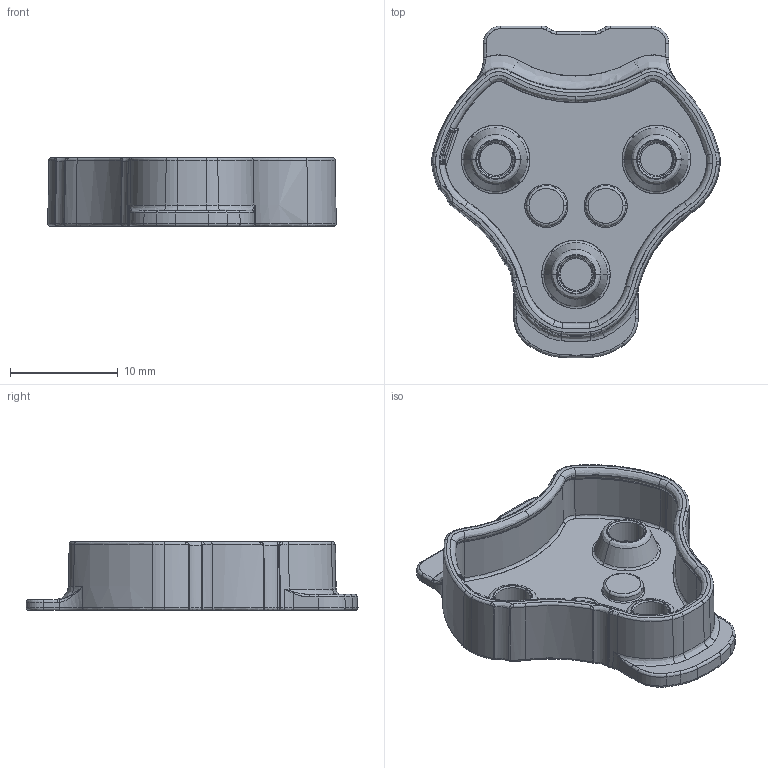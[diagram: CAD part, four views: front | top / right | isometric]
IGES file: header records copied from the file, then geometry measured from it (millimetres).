
Start section: SolidWorks IGES file using analytic representation for surfaces
Global section: file name: C:\TeknicPDM\EtherPath CPM-S\EtherPath CPM-S Customer Files\Dongle Customer Models\EtherPath CPM-S Light Pipe Cover.IGS; native system: SolidWorks 2020; preprocessor: SolidWorks 2020; author: matt_ciminelli; date: 230627.125137; units: millimetre
Bounding box: 26.77 x 30.81 x 6.4 mm (x, y, z)
Surface area: 2192.1 mm2 (no closed solid volume)
Topology: 0 solids, 0 shells, 565 faces, 3766 edges, 3753 vertices
Faces by surface type: bspline 457, revolution 108
